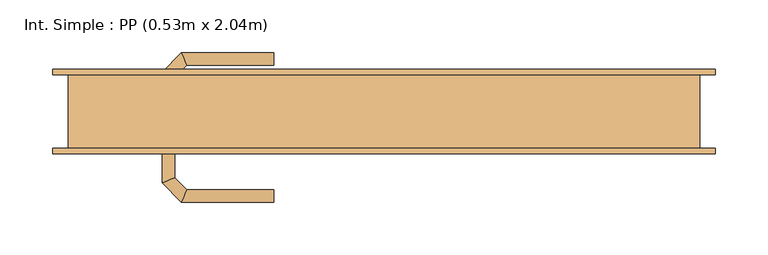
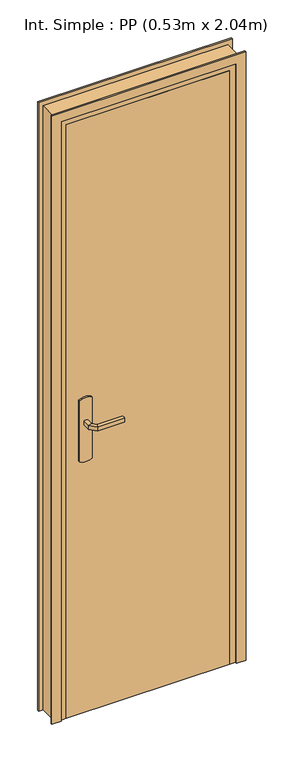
"""IFC4 building model written with IfcOpenShell, lengths in millimetres: door geometry, Int. Simple : PP (0.53m x 2.04m)."""

import ifcopenshell
import ifcopenshell.guid

model = None  # the IFC model being written
_history = None  # IfcOwnerHistory: only IFC2X3 demands one
_inside = {}  # id of a spatial element -> (the spatial element, [elements in it])
_under = {}  # id of a project, library or spatial element -> (it, [spatial elements below it])
_declared = {}  # id of a project -> (the project, [libraries it declares])
_typed = {}  # id of a type object -> (the type object, [elements of that type])
_made_of = {}  # id of a material, layer set ... -> (it, [elements and type objects made of it])


def new_model(schema):
    """Start an empty IFC model of exactly this schema.

    Asked for "IFC4X3", IfcOpenShell would pick the latest addendum, in which some entities
    have other attributes; the version numbers below select the first issue.
    IFC2X3 requires an IfcOwnerHistory on every rooted entity: one is made here for all.
    """
    global model, _history
    if schema == "IFC4X3":
        model = ifcopenshell.file(schema_version=(4, 3, 0, 0))
    else:
        model = ifcopenshell.file(schema=schema)
    _inside.clear()
    _under.clear()
    _declared.clear()
    _typed.clear()
    _made_of.clear()
    _history = None
    if model.schema == "IFC2X3":
        org = make("IfcOrganization", Name="unknown")
        user = make(
            "IfcPersonAndOrganization",
            ThePerson=make("IfcPerson", FamilyName="unknown"),
            TheOrganization=org,
        )
        app = make(
            "IfcApplication",
            ApplicationDeveloper=org,
            Version="unknown",
            ApplicationFullName="unknown",
            ApplicationIdentifier="unknown",
        )
        _history = make(
            "IfcOwnerHistory",
            OwningUser=user,
            OwningApplication=app,
            ChangeAction="ADDED",
            CreationDate=0,
        )
    return model


def make(cls, **values):
    """One entity of the class cls with the attributes given. An attribute that is None is left unset."""
    return model.create_entity(
        cls, **{name: value for name, value in values.items() if value is not None}
    )


def rooted(cls, **values):
    """An entity with a GlobalId (a new one), such as an element, a storey or a relation."""
    return make(cls, GlobalId=ifcopenshell.guid.new(), OwnerHistory=_history, **values)


def si_unit(unit_type, name, prefix=None):
    """IfcSIUnit, for example si_unit("LENGTHUNIT", "METRE", prefix="MILLI")."""
    return make("IfcSIUnit", UnitType=unit_type, Prefix=prefix, Name=name)


def assignment(units):
    """IfcUnitAssignment: the units of a project."""
    return None if units is None else make("IfcUnitAssignment", Units=units)


def point(xyz):
    """IfcCartesianPoint."""
    return None if xyz is None else make("IfcCartesianPoint", Coordinates=xyz)


def direction(xyz):
    """IfcDirection."""
    return None if xyz is None else make("IfcDirection", DirectionRatios=xyz)


def frame(location, z_axis=None, x_axis=None):
    """IfcAxis2Placement3D, a coordinate frame: its origin and axes. An axis left out is left unset."""
    return make(
        "IfcAxis2Placement3D",
        Location=point(location),
        Axis=direction(z_axis),
        RefDirection=direction(x_axis),
    )


def frame_2d(location, x_axis=None):
    """IfcAxis2Placement2D, a coordinate frame in the plane: its origin and x axis."""
    return make(
        "IfcAxis2Placement2D", Location=point(location), RefDirection=direction(x_axis)
    )


def origin():
    """The frame at (0, 0, 0) with its axes left unset."""
    return frame((0.0, 0.0, 0.0))


def origin_with_axes():
    """The frame at (0, 0, 0) with the z axis (0, 0, 1) and the x axis (1, 0, 0) written out."""
    return frame((0.0, 0.0, 0.0), z_axis=(0.0, 0.0, 1.0), x_axis=(1.0, 0.0, 0.0))


def place(relative_to, where):
    """IfcLocalPlacement: puts the frame where relative to a parent placement (None: the world)."""
    return make(
        "IfcLocalPlacement", PlacementRelTo=relative_to, RelativePlacement=where
    )


def context(
    kind, dimensions, precision=None, world=None, true_north=None, identifier=None
):
    """IfcGeometricRepresentationContext, for example the 3D "Model" context."""
    return make(
        "IfcGeometricRepresentationContext",
        ContextIdentifier=identifier,
        ContextType=kind,
        CoordinateSpaceDimension=dimensions,
        Precision=precision,
        WorldCoordinateSystem=world,
        TrueNorth=true_north,
    )


def project(units=None, contexts=None):
    """IfcProject with its units and contexts."""
    return rooted(
        "IfcProject",
        Name="project",
        RepresentationContexts=contexts,
        UnitsInContext=assignment(units),
    )


def spatial(cls, under=None, at=None, **own):
    """A site, building, storey or space (cls), placed at a placement, below another one or the project."""
    s = rooted(cls, ObjectPlacement=at, **own)
    if under is not None:
        _under.setdefault(under.id(), (under, []))[1].append(s)
    return s


def polyline(points):
    """IfcPolyline through the points."""
    return make("IfcPolyline", Points=[point(p) for p in points])


def circle_curve(where, radius):
    """IfcCircle in the frame where."""
    return make("IfcCircle", Position=where, Radius=radius)


def ellipse_curve(where, semi_axis1, semi_axis2):
    """IfcEllipse in the frame where."""
    return make(
        "IfcEllipse", Position=where, SemiAxis1=semi_axis1, SemiAxis2=semi_axis2
    )


def trimmed(basis, trim1, trim2, sense, master):
    """IfcTrimmedCurve: the piece of a basis curve between two trims."""
    return make(
        "IfcTrimmedCurve",
        BasisCurve=basis,
        Trim1=trim1,
        Trim2=trim2,
        SenseAgreement=sense,
        MasterRepresentation=master,
    )


def segment(curve, same_sense, transition):
    """IfcCompositeCurveSegment."""
    return make(
        "IfcCompositeCurveSegment",
        Transition=transition,
        SameSense=same_sense,
        ParentCurve=curve,
    )


def composite_curve(segments, self_intersect=None):
    """IfcCompositeCurve: segments joined end to end."""
    return make("IfcCompositeCurve", Segments=segments, SelfIntersect=self_intersect)


def outline(outer, holes=None, kind="AREA"):
    """IfcArbitraryClosedProfileDef: a profile drawn as a closed curve; with holes, ...WithVoids."""
    if holes is None:
        return make("IfcArbitraryClosedProfileDef", ProfileType=kind, OuterCurve=outer)
    return make(
        "IfcArbitraryProfileDefWithVoids",
        ProfileType=kind,
        OuterCurve=outer,
        InnerCurves=holes,
    )


def extrude(swept, where, along, depth):
    """IfcExtrudedAreaSolid: the profile swept, set in the frame where, extruded along a direction by depth."""
    return make(
        "IfcExtrudedAreaSolid",
        SweptArea=swept,
        Position=where,
        ExtrudedDirection=direction(along),
        Depth=depth,
    )


def faces_of(points, faces, orient=None, outer=None):
    """IfcFace entities. A face is a list of loops; a loop is a list of indices into points, from 0.

    orient and outer hold one flag for each loop. By default every Orientation is true, the
    first loop of a face is its IfcFaceOuterBound and the others are IfcFaceBound.
    """
    made = []
    for i, loops in enumerate(faces):
        bounds = []
        for j, loop in enumerate(loops):
            is_outer = j == 0 if outer is None else outer[i][j]
            bounds.append(
                make(
                    "IfcFaceOuterBound" if is_outer else "IfcFaceBound",
                    Bound=make("IfcPolyLoop", Polygon=[points[k] for k in loop]),
                    Orientation=True if orient is None else orient[i][j],
                )
            )
        made.append(make("IfcFace", Bounds=bounds))
    return made


def faceted_brep(points, faces, orient=None, outer=None, voids=None):
    """IfcFacetedBrep: a solid bounded by flat faces; with voids (closed shells), ...WithVoids."""
    shared = [point(p) for p in points]
    hull = make("IfcClosedShell", CfsFaces=faces_of(shared, faces, orient, outer))
    if voids is None:
        return make("IfcFacetedBrep", Outer=hull)
    return make(
        "IfcFacetedBrepWithVoids",
        Outer=hull,
        Voids=[
            make(cls, CfsFaces=faces_of(shared, fs, o, b)) for cls, fs, o, b in voids
        ],
    )


def shape(context_of_items, identifier, shape_type, items):
    """IfcShapeRepresentation: the items that make up one representation, for example the "Body"."""
    return make(
        "IfcShapeRepresentation",
        ContextOfItems=context_of_items,
        RepresentationIdentifier=identifier,
        RepresentationType=shape_type,
        Items=items,
    )


def source(mapping_origin, context_of_items, identifier, shape_type, items):
    """IfcRepresentationMap: a shape defined once, which mapped items show again and again."""
    return make(
        "IfcRepresentationMap",
        MappingOrigin=mapping_origin,
        MappedRepresentation=shape(context_of_items, identifier, shape_type, items),
    )


def transform(
    local_origin,
    x_axis=None,
    y_axis=None,
    z_axis=None,
    scale=None,
    scale2=None,
    scale3=None,
    uniform=True,
):
    """IfcCartesianTransformationOperator3D, or its non-uniform kind. x_axis, y_axis, z_axis: its Axis1, 2, 3."""
    if uniform:
        return make(
            "IfcCartesianTransformationOperator3D",
            Axis1=direction(x_axis),
            Axis2=direction(y_axis),
            LocalOrigin=point(local_origin),
            Scale=scale,
            Axis3=direction(z_axis),
        )
    return make(
        "IfcCartesianTransformationOperator3DnonUniform",
        Axis1=direction(x_axis),
        Axis2=direction(y_axis),
        LocalOrigin=point(local_origin),
        Scale=scale,
        Axis3=direction(z_axis),
        Scale2=scale2,
        Scale3=scale3,
    )


def mapped(mapping_source, mapping_target):
    """IfcMappedItem: shows the shape of a source again, moved by a transform."""
    return make(
        "IfcMappedItem", MappingSource=mapping_source, MappingTarget=mapping_target
    )


def made_of(thing, what):
    """Note that an element or type object is made of a material, layer set ...; save() writes the relation."""
    if what is not None:
        _made_of.setdefault(what.id(), (what, []))[1].append(thing)
    return thing


def element(
    cls,
    number,
    at=None,
    inside=None,
    cuts=None,
    type_object=None,
    material=None,
    context=None,
    identifier="Body",
    shape_type=None,
    held_by="IfcProductDefinitionShape",
    body=None,
    shapes=None,
    **own,
):
    """One element of the class cls, such as IfcWall. Its Tag is "e" and its number.

    at: its placement. inside: the storey or other place that contains it. cuts: it is an
    opening in that element (IfcRelVoidsElement). A single representation is given by context,
    identifier, shape_type and body (its items); several are given by shapes. held_by: the class
    of the entity that holds the representations. save() writes the other relations.
    """
    e = rooted(cls, Tag="e%d" % number, ObjectPlacement=at, **own)
    if body is not None:
        shapes = [shape(context, identifier, shape_type, body)]
    if shapes is not None:
        e.Representation = make(held_by, Representations=shapes)
    if inside is not None:
        _inside.setdefault(inside.id(), (inside, []))[1].append(e)
    if cuts is not None:
        rooted(
            "IfcRelVoidsElement", RelatingBuildingElement=cuts, RelatedOpeningElement=e
        )
    if type_object is not None:
        _typed.setdefault(type_object.id(), (type_object, []))[1].append(e)
    return made_of(e, material)


def aggregate(whole, parts):
    """IfcRelAggregates: a whole, such as a stair, and the parts it consists of."""
    return rooted("IfcRelAggregates", RelatingObject=whole, RelatedObjects=parts)


def save(model, path):
    """Write the relations noted so far, then the file.

    IfcRelAggregates (storeys below a building ...), IfcRelContainedInSpatialStructure (elements
    in a storey), IfcRelDefinesByType, IfcRelAssociatesMaterial and IfcRelDeclares: one each for
    every whole, place, type object, material and project.
    """
    for whole, parts in _under.values():
        aggregate(whole, parts)
    for where, things in _inside.values():
        rooted(
            "IfcRelContainedInSpatialStructure",
            RelatedElements=things,
            RelatingStructure=where,
        )
    for kind, things in _typed.values():
        rooted("IfcRelDefinesByType", RelatedObjects=things, RelatingType=kind)
    for what, things in _made_of.values():
        rooted("IfcRelAssociatesMaterial", RelatedObjects=things, RelatingMaterial=what)
    for by, libraries in _declared.values():
        rooted("IfcRelDeclares", RelatingContext=by, RelatedDefinitions=libraries)
    model.write(path)


def plane_surface(at):
    """IfcPlane: the flat surface through the origin of the frame at, square to its z axis."""
    return make("IfcPlane", Position=at)


def cylinder_surface(at, radius):
    """IfcCylindricalSurface: all points at the distance radius from the z axis of the frame at."""
    return make("IfcCylindricalSurface", Position=at, Radius=radius)


def advanced_brep(points, edges, surfaces, faces):
    """IfcAdvancedBrep: a solid bounded by faces that lie on surfaces and meet in shared edges.

    An edge is (start, end): straight between two places in points (the first is 0);
    or (start, end, curve); or (start, end, curve, False) where it runs against its curve.
    A face is (place in surfaces, loops), or (place, loops, False) where it looks against
    its surface's normal. A loop lists edges by number (the first is 1), with a minus sign
    where the edge is run from its end to its start. The first loop is the outer one.
    """
    corners = [point(p) for p in points]
    vertices = [make("IfcVertexPoint", VertexGeometry=c) for c in corners]
    made = []
    for start, end, *more in edges:
        made.append(
            make(
                "IfcEdgeCurve",
                EdgeStart=vertices[start],
                EdgeEnd=vertices[end],
                EdgeGeometry=more[0] if more else make("IfcPolyline", Points=[corners[start], corners[end]]),
                SameSense=more[1] if len(more) > 1 else True,
            )
        )
    hull = []
    for where, loops, *sense in faces:
        bounds = []
        for j, loop in enumerate(loops):
            ring = [make("IfcOrientedEdge", EdgeElement=made[abs(k) - 1], Orientation=k > 0) for k in loop]
            bounds.append(
                make(
                    "IfcFaceOuterBound" if j == 0 else "IfcFaceBound",
                    Bound=make("IfcEdgeLoop", EdgeList=ring),
                    Orientation=True,
                )
            )
        hull.append(make("IfcAdvancedFace", Bounds=bounds, FaceSurface=surfaces[where], SameSense=sense[0] if sense else True))
    return make("IfcAdvancedBrep", Outer=make("IfcClosedShell", CfsFaces=hull))


def int_simple_pp_0_53m_x_2_04m_d59d42f6(model_context):
    return source(origin(), model_context, "Body", "SolidModel", [
        extrude(outline(composite_curve([segment(trimmed(circle_curve(frame_2d((904.6410162, -240.0)), 40.0), [point((870.0, -260.0))], [point((870.0, -220.0))], False, "CARTESIAN"), True, "CONTINUOUS"), segment(polyline([(870.0, -220.0), (1080.0, -220.0)]), True, "CONTINUOUS"), segment(trimmed(circle_curve(frame_2d((1045.3589838, -240.0)), 40.0), [point((1080.0, -220.0))], [point((1080.0, -260.0))], False, "CARTESIAN"), True, "CONTINUOUS"), segment(polyline([(1080.0, -260.0), (870.0, -260.0)]), True, "CONTINUOUS")], self_intersect=False)), frame((0.0, -40.0, 0.0), z_axis=(0.0, 1.0, 0.0), x_axis=(0.0, 0.0, 1.0)), (0.0, 0.0, 1.0), 5.0),
        extrude(outline(composite_curve([segment(trimmed(circle_curve(frame_2d((1045.3589838, -240.0)), 40.0), [point((1080.0, -220.0))], [point((1080.0, -260.0))], False, "CARTESIAN"), True, "CONTINUOUS"), segment(polyline([(1080.0, -260.0), (870.0, -260.0)]), True, "CONTINUOUS"), segment(trimmed(circle_curve(frame_2d((904.6410162, -240.0)), 40.0), [point((870.0, -260.0))], [point((870.0, -220.0))], False, "CARTESIAN"), True, "CONTINUOUS"), segment(polyline([(870.0, -220.0), (1080.0, -220.0)]), True, "CONTINUOUS")], self_intersect=False)), frame((0.0, 5.0, 0.0), z_axis=(0.0, 1.0, 0.0), x_axis=(0.0, 0.0, 1.0)), (0.0, 0.0, 1.0), 5.0),
        advanced_brep(
        [(-246.0, -40.0, 1007.0), (-234.0, -40.0, 1007.0), (-234.0, -40.0, 993.0), (-246.0, -40.0, 993.0), (-246.0, -67.6509507, 1007.0), (-234.0, -62.680388, 1007.0), (-234.0, -62.680388, 993.0), (-246.0, -67.6509507, 993.0), (-227.62279, -86.0281607, 1007.0), (-222.6522273, -74.0281607, 1007.0), (-222.6522273, -74.0281607, 993.0), (-227.62279, -86.0281607, 993.0), (-139.9813594, -86.0281607, 1007.0), (-139.9813594, -86.0281607, 993.0), (-139.9813594, -74.0281607, 993.0), (-139.9813594, -74.0281607, 1007.0)],
        [
            (0, 1, circle_curve(frame((-240.0, -40.0, 986.9542278), z_axis=(0.0, 1.0, 0.0), x_axis=(1.0, 0.0, 0.0)), 20.9244589)),
            (1, 2),
            (2, 3, circle_curve(frame((-240.0, -40.0, 1013.0457722), z_axis=(0.0, 1.0, 0.0), x_axis=(1.0, 0.0, 0.0)), 20.9244589)),
            (3, 0),
            (0, 4),
            (4, 5, ellipse_curve(frame((-240.0, -65.1656693, 986.9542278), z_axis=(-0.3826834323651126, 0.9238795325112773, 0.0), x_axis=(0.9238795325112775, 0.38268343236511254, 0.0)), 22.6484711, 20.9244589)),
            (5, 1),
            (5, 6),
            (6, 2),
            (6, 7, ellipse_curve(frame((-240.0, -65.1656693, 1013.0457722), z_axis=(-0.3826834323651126, 0.9238795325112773, 0.0), x_axis=(0.9238795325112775, 0.38268343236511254, 0.0)), 22.6484711, 20.9244589)),
            (7, 3),
            (7, 4),
            (4, 8),
            (8, 9, ellipse_curve(frame((-225.1375086, -80.0281607, 986.9542278), z_axis=(-0.9238795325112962, 0.38268343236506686, 0.0), x_axis=(0.3826834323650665, 0.9238795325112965, 0.0)), 22.6484711, 20.9244589)),
            (9, 5),
            (9, 10),
            (10, 6),
            (10, 11, ellipse_curve(frame((-225.1375086, -80.0281607, 1013.0457722), z_axis=(-0.9238795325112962, 0.38268343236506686, 0.0), x_axis=(0.3826834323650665, 0.9238795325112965, 0.0)), 22.6484711, 20.9244589)),
            (11, 7),
            (11, 8),
            (12, 13),
            (13, 14, circle_curve(frame((-139.9813594, -80.0281607, 1013.0457722), z_axis=(1.0, 0.0, 0.0), x_axis=(0.0, 1.0, 0.0)), 20.9244589)),
            (14, 15),
            (15, 12, circle_curve(frame((-139.9813594, -80.0281607, 986.9542278), z_axis=(1.0, 0.0, 0.0), x_axis=(0.0, 1.0, 0.0)), 20.9244589)),
            (8, 12),
            (15, 9),
            (14, 10),
            (13, 11),
        ],
        [
            plane_surface(frame((-249.2195445, -40.0, 1000.0), z_axis=(0.0, 1.0, 0.0), x_axis=(0.0, 0.0, -1.0))),
            cylinder_surface(frame((-240.0, -40.0, 986.9542278), z_axis=(0.0, 1.0, 0.0), x_axis=(1.0, 0.0, 0.0)), 20.9244589),
            plane_surface(frame((-234.0, -40.0, 1007.0), z_axis=(1.0, 0.0, 0.0), x_axis=(0.0, -1.0, 0.0))),
            cylinder_surface(frame((-240.0, -40.0, 1013.0457722), z_axis=(0.0, 1.0, 0.0), x_axis=(1.0, 0.0, 0.0)), 20.9244589),
            plane_surface(frame((-246.0, -40.0, 993.0), z_axis=(-1.0, 0.0, 0.0), x_axis=(0.0, -1.0, 0.0))),
            cylinder_surface(frame((-240.0, -65.1656693, 986.9542278), z_axis=(-0.7071067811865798, 0.7071067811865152, 0.0), x_axis=(0.7071067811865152, 0.7071067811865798, 0.0)), 20.9244589),
            plane_surface(frame((-234.0, -62.680388, 1007.0), z_axis=(0.7071067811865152, 0.7071067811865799, 0.0), x_axis=(0.7071067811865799, -0.7071067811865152, 0.0))),
            cylinder_surface(frame((-240.0, -65.1656693, 1013.0457722), z_axis=(-0.7071067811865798, 0.7071067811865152, 0.0), x_axis=(0.7071067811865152, 0.7071067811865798, 0.0)), 20.9244589),
            plane_surface(frame((-246.0, -67.6509507, 993.0), z_axis=(-0.7071067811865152, -0.7071067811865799, 0.0), x_axis=(0.7071067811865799, -0.7071067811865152, 0.0))),
            plane_surface(frame((-139.9813594, -80.0281607, 990.7804555), z_axis=(1.0, 0.0, 0.0), x_axis=(0.0, 1.0, 0.0))),
            cylinder_surface(frame((-225.1375086, -80.0281607, 986.9542278), z_axis=(-1.0, 0.0, 0.0), x_axis=(0.0, 1.0, 0.0)), 20.9244589),
            plane_surface(frame((-222.6522273, -74.0281607, 1007.0), z_axis=(0.0, 1.0, 0.0), x_axis=(1.0, 0.0, 0.0))),
            cylinder_surface(frame((-225.1375086, -80.0281607, 1013.0457722), z_axis=(-1.0, 0.0, 0.0), x_axis=(0.0, 1.0, 0.0)), 20.9244589),
            plane_surface(frame((-227.62279, -86.0281607, 993.0), z_axis=(0.0, -1.0, 0.0), x_axis=(1.0, 0.0, 0.0))),
        ],
        [
            (0, [[1, 2, 3, 4]]),
            (1, [[-1, 5, 6, 7]]),
            (2, [[-2, -7, 8, 9]]),
            (3, [[-3, -9, 10, 11]]),
            (4, [[-4, -11, 12, -5]]),
            (5, [[-6, 13, 14, 15]]),
            (6, [[-8, -15, 16, 17]]),
            (7, [[-10, -17, 18, 19]]),
            (8, [[-12, -19, 20, -13]]),
            (9, [[21, 22, 23, 24]]),
            (10, [[-14, 25, -24, 26]]),
            (11, [[-16, -26, -23, 27]]),
            (12, [[-18, -27, -22, 28]]),
            (13, [[-20, -28, -21, -25]]),
        ],
    ),
        advanced_brep(
        [(-234.0, 10.0, 993.0), (-234.0, 10.0, 1007.0), (-246.0, 10.0, 1007.0), (-246.0, 10.0, 993.0), (-234.0, 32.4852045, 993.0), (-234.0, 32.4852045, 1007.0), (-246.0, 37.4557673, 1007.0), (-246.0, 37.4557673, 993.0), (-222.5147186, 43.9704859, 993.0), (-222.5147186, 43.9704859, 1007.0), (-227.4852814, 55.9704859, 1007.0), (-227.4852814, 55.9704859, 993.0), (-139.9542163, 43.9704859, 993.0), (-139.9542163, 55.9704859, 993.0), (-139.9542163, 55.9704859, 1007.0), (-139.9542163, 43.9704859, 1007.0)],
        [
            (0, 1),
            (1, 2, circle_curve(frame((-240.0, 10.0, 986.9542278), z_axis=(0.0, -1.0, 0.0), x_axis=(-1.0, 0.0, 0.0)), 20.9244589)),
            (2, 3),
            (3, 0, circle_curve(frame((-240.0, 10.0, 1013.0457722), z_axis=(0.0, -1.0, 0.0), x_axis=(-1.0, 0.0, 0.0)), 20.9244589)),
            (0, 4),
            (4, 5),
            (5, 1),
            (5, 6, ellipse_curve(frame((-240.0, 34.9704859, 986.9542278), z_axis=(-0.3826834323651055, -0.9238795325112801, 0.0), x_axis=(0.9238795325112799, -0.3826834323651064, 0.0)), 22.6484711, 20.9244589)),
            (6, 2),
            (6, 7),
            (7, 3),
            (7, 4, ellipse_curve(frame((-240.0, 34.9704859, 1013.0457722), z_axis=(-0.3826834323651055, -0.9238795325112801, 0.0), x_axis=(0.9238795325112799, -0.3826834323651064, 0.0)), 22.6484711, 20.9244589)),
            (4, 8),
            (8, 9),
            (9, 5),
            (9, 10, ellipse_curve(frame((-225.0, 49.9704859, 986.9542278), z_axis=(-0.9238795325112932, -0.382683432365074, 0.0), x_axis=(0.3826834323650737, -0.9238795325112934, 0.0)), 22.6484711, 20.9244589)),
            (10, 6),
            (10, 11),
            (11, 7),
            (11, 8, ellipse_curve(frame((-225.0, 49.9704859, 1013.0457722), z_axis=(-0.9238795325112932, -0.382683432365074, 0.0), x_axis=(0.3826834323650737, -0.9238795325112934, 0.0)), 22.6484711, 20.9244589)),
            (12, 13, circle_curve(frame((-139.9542163, 49.9704859, 1013.0457722), z_axis=(1.0, 0.0, 0.0), x_axis=(0.0, 1.0, 0.0)), 20.9244589)),
            (13, 14),
            (14, 15, circle_curve(frame((-139.9542163, 49.9704859, 986.9542278), z_axis=(1.0, 0.0, 0.0), x_axis=(0.0, 1.0, 0.0)), 20.9244589)),
            (15, 12),
            (8, 12),
            (15, 9),
            (14, 10),
            (13, 11),
        ],
        [
            plane_surface(frame((-249.2195445, 10.0, 1000.0), z_axis=(0.0, -1.0, 0.0), x_axis=(0.0, 0.0, 1.0))),
            plane_surface(frame((-234.0, 10.0, 993.0), z_axis=(1.0, 0.0, 0.0), x_axis=(0.0, 1.0, 0.0))),
            cylinder_surface(frame((-240.0, 10.0, 986.9542278), z_axis=(0.0, -1.0, 0.0), x_axis=(-1.0, 0.0, 0.0)), 20.9244589),
            plane_surface(frame((-246.0, 10.0, 1007.0), z_axis=(-1.0, 0.0, 0.0), x_axis=(0.0, 1.0, 0.0))),
            cylinder_surface(frame((-240.0, 10.0, 1013.0457722), z_axis=(0.0, -1.0, 0.0), x_axis=(-1.0, 0.0, 0.0)), 20.9244589),
            plane_surface(frame((-234.0, 32.4852045, 993.0), z_axis=(0.7071067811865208, -0.7071067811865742, 0.0), x_axis=(0.7071067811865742, 0.7071067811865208, 0.0))),
            cylinder_surface(frame((-240.0, 34.9704859, 986.9542278), z_axis=(-0.7071067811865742, -0.7071067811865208, 0.0), x_axis=(-0.7071067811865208, 0.7071067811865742, 0.0)), 20.9244589),
            plane_surface(frame((-246.0, 37.4557673, 1007.0), z_axis=(-0.7071067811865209, 0.7071067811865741, 0.0), x_axis=(0.7071067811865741, 0.7071067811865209, 0.0))),
            cylinder_surface(frame((-240.0, 34.9704859, 1013.0457722), z_axis=(-0.7071067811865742, -0.7071067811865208, 0.0), x_axis=(-0.7071067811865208, 0.7071067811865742, 0.0)), 20.9244589),
            plane_surface(frame((-139.9542163, 49.9704859, 990.7804555), z_axis=(1.0, 0.0, 0.0), x_axis=(0.0, 1.0, 0.0))),
            plane_surface(frame((-222.5147186, 43.9704859, 993.0), z_axis=(0.0, -1.0, 0.0), x_axis=(1.0, 0.0, 0.0))),
            cylinder_surface(frame((-225.0, 49.9704859, 986.9542278), z_axis=(-1.0, 0.0, 0.0), x_axis=(0.0, 1.0, 0.0)), 20.9244589),
            plane_surface(frame((-227.4852814, 55.9704859, 1007.0), z_axis=(0.0, 1.0, 0.0), x_axis=(1.0, 0.0, 0.0))),
            cylinder_surface(frame((-225.0, 49.9704859, 1013.0457722), z_axis=(-1.0, 0.0, 0.0), x_axis=(0.0, 1.0, 0.0)), 20.9244589),
        ],
        [
            (0, [[1, 2, 3, 4]]),
            (1, [[-1, 5, 6, 7]]),
            (2, [[-2, -7, 8, 9]]),
            (3, [[-3, -9, 10, 11]]),
            (4, [[-4, -11, 12, -5]]),
            (5, [[-6, 13, 14, 15]]),
            (6, [[-8, -15, 16, 17]]),
            (7, [[-10, -17, 18, 19]]),
            (8, [[-12, -19, 20, -13]]),
            (9, [[21, 22, 23, 24]]),
            (10, [[-14, 25, -24, 26]]),
            (11, [[-16, -26, -23, 27]]),
            (12, [[-18, -27, -22, 28]]),
            (13, [[-20, -28, -21, -25]]),
        ],
    ),
        extrude(outline(polyline([(-300.0, 5.0), (230.0, 5.0), (230.0, -35.0), (-300.0, -35.0), (-300.0, 5.0)])), origin_with_axes(), (0.0, 0.0, 1.0), 2040.0),
        faceted_brep([(-335.0, -35.0, 0.0), (-335.0, 35.0, 0.0), (-285.0, 35.0, 0.0), (-285.0, 5.0, 0.0), (-300.0, 5.0, 0.0), (-300.0, -35.0, 0.0), (-335.0, -35.0, 2075.0), (-335.0, 35.0, 2075.0), (265.0, 35.0, 2075.0), (265.0, 35.0, 0.0), (215.0, 35.0, 0.0), (215.0, 35.0, 2025.0), (-285.0, 35.0, 2025.0), (-285.0, 5.0, 2025.0), (215.0, 5.0, 2025.0), (215.0, 5.0, 0.0), (230.0, 5.0, 0.0), (230.0, 5.0, 2040.0), (-300.0, 5.0, 2040.0), (-300.0, -35.0, 2040.0), (230.0, -35.0, 2040.0), (230.0, -35.0, 0.0), (265.0, -35.0, 0.0), (265.0, -35.0, 2075.0)], [[[0, 1, 2, 3, 4, 5]], [[1, 0, 6, 7]], [[2, 1, 7, 8, 9, 10, 11, 12]], [[3, 2, 12, 13]], [[4, 3, 13, 14, 15, 16, 17, 18]], [[5, 4, 18, 19]], [[0, 5, 19, 20, 21, 22, 23, 6]], [[8, 23, 22, 9]], [[22, 21, 16, 15, 10, 9]], [[14, 11, 10, 15]], [[20, 17, 16, 21]], [[7, 6, 23, 8]], [[13, 12, 11, 14]], [[19, 18, 17, 20]]]),
        extrude(outline(polyline([(0.0, -350.0), (0.0, -320.0), (2060.0, -320.0), (2060.0, 250.0), (0.0, 250.0), (0.0, 280.0), (2090.0, 280.0), (2090.0, -350.0), (0.0, -350.0)])), frame((0.0, -40.0, 0.0), z_axis=(0.0, 1.0, 0.0), x_axis=(0.0, 0.0, 1.0)), (0.0, 0.0, 1.0), 5.0),
        extrude(outline(polyline([(0.0, -350.0), (0.0, -320.0), (2060.0, -320.0), (2060.0, 250.0), (0.0, 250.0), (0.0, 280.0), (2090.0, 280.0), (2090.0, -350.0), (0.0, -350.0)])), frame((0.0, 35.0, 0.0), z_axis=(0.0, 1.0, 0.0), x_axis=(0.0, 0.0, 1.0)), (0.0, 0.0, 1.0), 5.0),
    ])


if __name__ == "__main__":
    model = new_model("IFC4")
    model_context = context("Model", 3, world=origin())
    ifc_project = project(units=[si_unit("LENGTHUNIT", "METRE", prefix="MILLI")], contexts=[model_context])
    site = spatial("IfcSite", under=ifc_project)
    building = spatial("IfcBuilding", under=site)
    placement = place(None, origin())
    int_simple_pp_0_53m_x_2_04m_shape = int_simple_pp_0_53m_x_2_04m_d59d42f6(model_context)
    element("IfcDoor", 1, ObjectType="Int. Simple : PP (0.53m x 2.04m)", at=placement, inside=building, context=model_context, shape_type="MappedRepresentation", body=[
        mapped(int_simple_pp_0_53m_x_2_04m_shape, transform((0.0, 0.0, 0.0), x_axis=(1.0, 0.0, 0.0), y_axis=(0.0, 1.0, 0.0), z_axis=(0.0, 0.0, 1.0))),
    ])
    save(model, "model.ifc")
